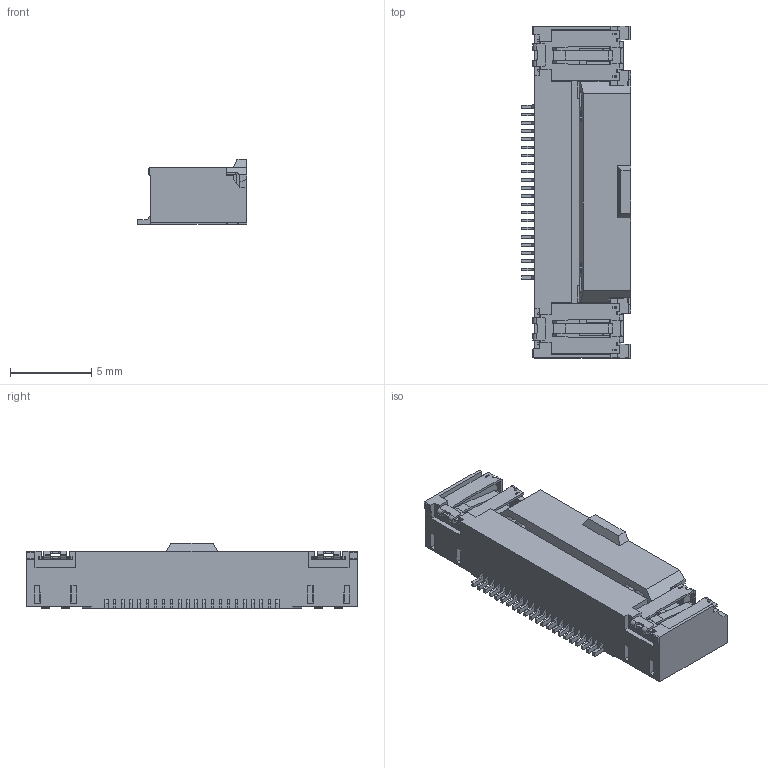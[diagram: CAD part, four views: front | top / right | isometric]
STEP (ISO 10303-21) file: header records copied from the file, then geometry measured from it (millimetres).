
FILE_DESCRIPTION (( 'STEP AP214' ), '1' );
FILE_NAME ('006810620001.STEP', '2022-06-15T04:18:49', ( '' ), ( '' ), 'SwSTEP 2.0', 'SolidWorks 2021', '' );
FILE_SCHEMA (( 'AUTOMOTIVE_DESIGN' ));
Length unit declared in the file: millimetre
Products named in the file (1): 006810620001
Bounding box: 6.7 x 20.4 x 4.04 mm (x, y, z)
Volume: 308.2 mm3; surface area: 926.7 mm2
Topology: 1 solids, 1 shells, 1055 faces, 2943 edges, 1878 vertices
Faces by surface type: plane 709, cylinder 274, torus 48, bspline 24
Entity records: 34574 total; most frequent: CARTESIAN_POINT 7770, ORIENTED_EDGE 5886, DIRECTION 5155, EDGE_CURVE 2943, VECTOR 2227, LINE 2227, VERTEX_POINT 1878, AXIS2_PLACEMENT_3D 1464
